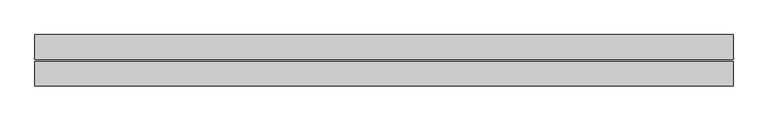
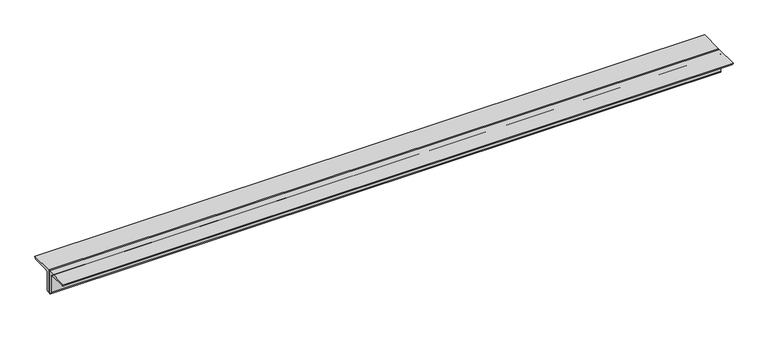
"""IFC4 building model written with IfcOpenShell, lengths in millimetres: beam geometry, Profilati doppi a L : DCED150x12."""

from ifc_helpers import new_model, si_unit, point, frame, frame_2d, origin, place, context, project, spatial, polyline, circle_curve, trimmed, segment, composite_curve, outline, extrude, source, transform, mapped, element, save


def beam_69747abd(model_context):
    return source(origin(), model_context, "Body", "SweptSolid", [
        extrude(outline(composite_curve([segment(polyline([(6.0, 42.4), (156.0, 42.4)]), True, "CONTINUOUS"), segment(trimmed(circle_curve(frame_2d((141.0, 42.4)), 15.0), [point((156.0, 42.4))], [point((141.0, 27.4))], False, "CARTESIAN"), True, "CONTINUOUS"), segment(polyline([(141.0, 27.4), (36.0, 27.4)]), True, "CONTINUOUS"), segment(trimmed(circle_curve(frame_2d((36.0, 12.4)), 15.0), [point((36.0, 27.4))], [point((21.0, 12.4))], True, "CARTESIAN"), True, "CONTINUOUS"), segment(polyline([(21.0, 12.4), (21.0, -92.6)]), True, "CONTINUOUS"), segment(trimmed(circle_curve(frame_2d((6.0, -92.6)), 15.0), [point((21.0, -92.6))], [point((6.0, -107.6))], False, "CARTESIAN"), True, "CONTINUOUS"), segment(polyline([(6.0, -107.6), (6.0, 42.4)]), True, "CONTINUOUS")], self_intersect=False)), frame((-2080.0, 0.0, 0.0), z_axis=(1.0, 0.0, 0.0), x_axis=(0.0, 1.0, 0.0)), (0.0, 0.0, 1.0), 4227.0),
        extrude(outline(composite_curve([segment(polyline([(-6.0, 42.4), (-6.0, -107.6)]), True, "CONTINUOUS"), segment(trimmed(circle_curve(frame_2d((-6.0, -92.6)), 15.0), [point((-6.0, -107.6))], [point((-21.0, -92.6))], False, "CARTESIAN"), True, "CONTINUOUS"), segment(polyline([(-21.0, -92.6), (-21.0, 12.4)]), True, "CONTINUOUS"), segment(trimmed(circle_curve(frame_2d((-36.0, 12.4)), 15.0), [point((-21.0, 12.4))], [point((-36.0, 27.4))], True, "CARTESIAN"), True, "CONTINUOUS"), segment(polyline([(-36.0, 27.4), (-141.0, 27.4)]), True, "CONTINUOUS"), segment(trimmed(circle_curve(frame_2d((-141.0, 42.4)), 15.0), [point((-141.0, 27.4))], [point((-156.0, 42.4))], False, "CARTESIAN"), True, "CONTINUOUS"), segment(polyline([(-156.0, 42.4), (-6.0, 42.4)]), True, "CONTINUOUS")], self_intersect=False)), frame((-2080.0, 0.0, 0.0), z_axis=(1.0, 0.0, 0.0), x_axis=(0.0, 1.0, 0.0)), (0.0, 0.0, 1.0), 4227.0),
    ])


if __name__ == "__main__":
    model = new_model("IFC4")
    model_context = context("Model", 3, world=origin())
    ifc_project = project(units=[si_unit("LENGTHUNIT", "METRE", prefix="MILLI")], contexts=[model_context])
    site = spatial("IfcSite", under=ifc_project)
    building = spatial("IfcBuilding", under=site)
    placement = place(None, origin())
    beam_shape = beam_69747abd(model_context)
    element("IfcBeam", 1, ObjectType="Profilati doppi a L : DCED150x12", at=placement, inside=building, context=model_context, shape_type="MappedRepresentation", body=[
        mapped(beam_shape, transform((0.0, 0.0, 0.0), x_axis=(1.0, 0.0, 0.0), y_axis=(0.0, 1.0, 0.0), z_axis=(0.0, 0.0, 1.0))),
    ])
    save(model, "model.ifc")
